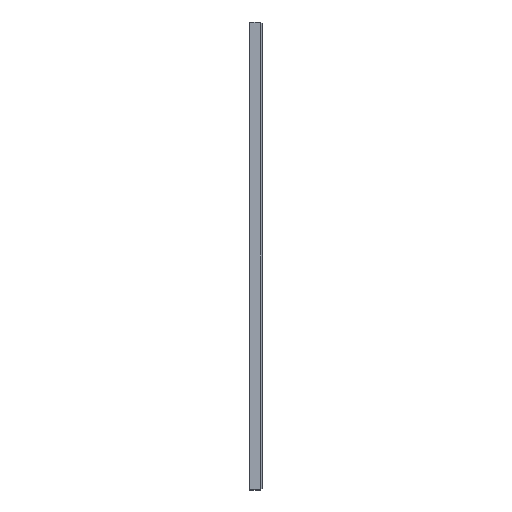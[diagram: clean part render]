
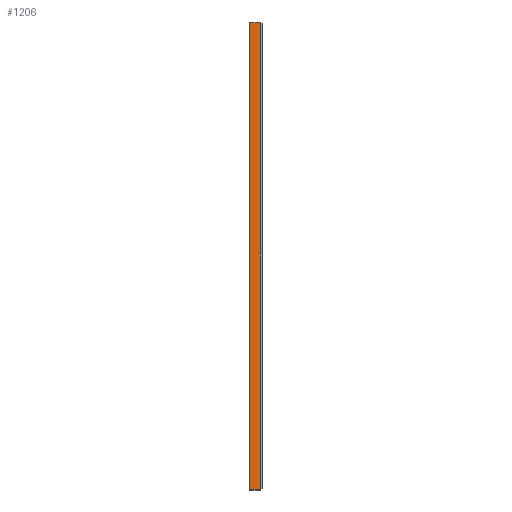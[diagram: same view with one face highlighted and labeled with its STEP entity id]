
A CAD part, left-side view. The second image highlights one B-rep face of the part: STEP entity #1206.
In plain terms, the highlighted planar face has unit normal (-1, 0, 0).
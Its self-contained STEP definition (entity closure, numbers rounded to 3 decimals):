
#15 = EDGE_CURVE ( 'NONE', #673, #570, #1150, .T. ) ;
#28 = VECTOR ( 'NONE', #703, 1000. ) ;
#62 = DIRECTION ( 'NONE',  ( 0., -1., 0. ) ) ;
#66 = DIRECTION ( 'NONE',  ( 0., 0., 1. ) ) ;
#166 = VECTOR ( 'NONE', #62, 1000. ) ;
#176 = CARTESIAN_POINT ( 'NONE',  ( -213.4, 1.5, -184.9 ) ) ;
#281 = AXIS2_PLACEMENT_3D ( 'NONE', #529, #1064, #425 ) ;
#313 = CARTESIAN_POINT ( 'NONE',  ( -213.4, 1.5, -184.4 ) ) ;
#395 = LINE ( 'NONE', #1025, #28 ) ;
#420 = VECTOR ( 'NONE', #933, 1000. ) ;
#425 = DIRECTION ( 'NONE',  ( 0., 0., -1. ) ) ;
#506 = CARTESIAN_POINT ( 'NONE',  ( -213.4, 10., -184.9 ) ) ;
#529 = CARTESIAN_POINT ( 'NONE',  ( -213.4, 10., -184.9 ) ) ;
#535 = EDGE_CURVE ( 'NONE', #570, #1326, #395, .T. ) ;
#570 = VERTEX_POINT ( 'NONE', #578 ) ;
#578 = CARTESIAN_POINT ( 'NONE',  ( -213.4, 1.5, 184.4 ) ) ;
#673 = VERTEX_POINT ( 'NONE', #313 ) ;
#703 = DIRECTION ( 'NONE',  ( 0., 1., 0. ) ) ;
#717 = CARTESIAN_POINT ( 'NONE',  ( -213.4, 10., -184.4 ) ) ;
#752 = PLANE ( 'NONE',  #281 ) ;
#819 = ORIENTED_EDGE ( 'NONE', *, *, #535, .T. ) ;
#848 = CARTESIAN_POINT ( 'NONE',  ( -213.4, 10., -184.4 ) ) ;
#918 = CARTESIAN_POINT ( 'NONE',  ( -213.4, 10., 184.4 ) ) ;
#933 = DIRECTION ( 'NONE',  ( 0., 0., 1. ) ) ;
#952 = ORIENTED_EDGE ( 'NONE', *, *, #995, .T. ) ;
#957 = LINE ( 'NONE', #506, #420 ) ;
#964 = VECTOR ( 'NONE', #66, 1000. ) ;
#987 = EDGE_LOOP ( 'NONE', ( #952, #1130, #819, #1133 ) ) ;
#995 = EDGE_CURVE ( 'NONE', #1170, #673, #1031, .T. ) ;
#1025 = CARTESIAN_POINT ( 'NONE',  ( -213.4, 10., 184.4 ) ) ;
#1031 = LINE ( 'NONE', #717, #166 ) ;
#1038 = EDGE_CURVE ( 'NONE', #1170, #1326, #957, .T. ) ;
#1064 = DIRECTION ( 'NONE',  ( 1., 0., 0. ) ) ;
#1130 = ORIENTED_EDGE ( 'NONE', *, *, #15, .T. ) ;
#1133 = ORIENTED_EDGE ( 'NONE', *, *, #1038, .F. ) ;
#1150 = LINE ( 'NONE', #176, #964 ) ;
#1170 = VERTEX_POINT ( 'NONE', #848 ) ;
#1206 = ADVANCED_FACE ( 'NONE', ( #1265 ), #752, .F. ) ;
#1265 = FACE_OUTER_BOUND ( 'NONE', #987, .T. ) ;
#1326 = VERTEX_POINT ( 'NONE', #918 ) ;
